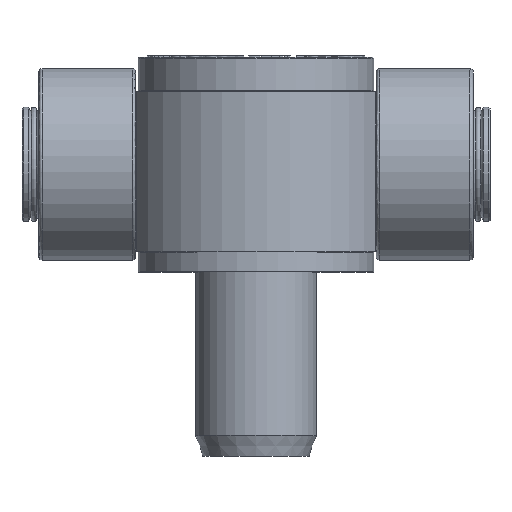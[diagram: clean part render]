
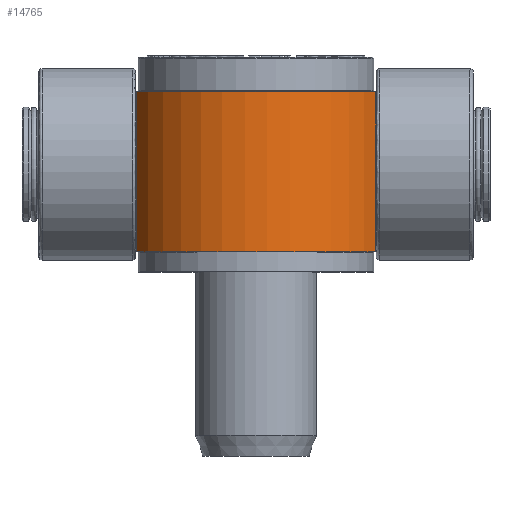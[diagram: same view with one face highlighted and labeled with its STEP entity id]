
A CAD part, top view. The second image highlights one B-rep face of the part: STEP entity #14765.
In plain terms, the highlighted cylindrical face has radius 79 mm (diameter 158 mm), a partial arc.
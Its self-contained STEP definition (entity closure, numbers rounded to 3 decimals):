
#1708=CYLINDRICAL_SURFACE('',#15720,79.);
#1801=FACE_OUTER_BOUND('',#2632,.T.);
#2632=EDGE_LOOP('',(#10202,#10203,#10204,#10205));
#3497=LINE('',#19789,#4778);
#3500=LINE('',#20004,#4781);
#4778=VECTOR('',#16598,10.);
#4781=VECTOR('',#16605,10.);
#6070=CIRCLE('',#15712,79.);
#6074=CIRCLE('',#15718,79.);
#6294=VERTEX_POINT('',#19783);
#6296=VERTEX_POINT('',#19787);
#6299=VERTEX_POINT('',#20000);
#6301=VERTEX_POINT('',#20003);
#7836=EDGE_CURVE('',#6294,#6296,#3497,.T.);
#7842=EDGE_CURVE('',#6301,#6299,#3500,.T.);
#7850=EDGE_CURVE('',#6301,#6296,#6070,.T.);
#7855=EDGE_CURVE('',#6294,#6299,#6074,.T.);
#10202=ORIENTED_EDGE('',*,*,#7842,.T.);
#10203=ORIENTED_EDGE('',*,*,#7855,.F.);
#10204=ORIENTED_EDGE('',*,*,#7836,.T.);
#10205=ORIENTED_EDGE('',*,*,#7850,.F.);
#14765=ADVANCED_FACE('',(#1801),#1708,.T.);
#15712=AXIS2_PLACEMENT_3D('',#20019,#16622,#16623);
#15718=AXIS2_PLACEMENT_3D('',#20027,#16635,#16636);
#15720=AXIS2_PLACEMENT_3D('',#20029,#16639,#16640);
#16598=DIRECTION('',(0.,0.,1.));
#16605=DIRECTION('',(0.,0.,-1.));
#16622=DIRECTION('center_axis',(0.,0.,1.));
#16623=DIRECTION('ref_axis',(-1.,0.,0.));
#16635=DIRECTION('center_axis',(0.,0.,-1.));
#16636=DIRECTION('ref_axis',(-1.,0.,0.));
#16639=DIRECTION('center_axis',(0.,0.,1.));
#16640=DIRECTION('ref_axis',(-1.,0.,0.));
#19783=CARTESIAN_POINT('',(-34.641,-71.,0.));
#19787=CARTESIAN_POINT('',(-34.641,-71.,95.));
#19789=CARTESIAN_POINT('',(-34.641,-71.,0.));
#20000=CARTESIAN_POINT('',(-34.641,71.,0.));
#20003=CARTESIAN_POINT('',(-34.641,71.,95.));
#20004=CARTESIAN_POINT('',(-34.641,71.,0.));
#20019=CARTESIAN_POINT('Origin',(0.,0.,95.));
#20027=CARTESIAN_POINT('Origin',(0.,0.,0.));
#20029=CARTESIAN_POINT('Origin',(0.,0.,0.));
